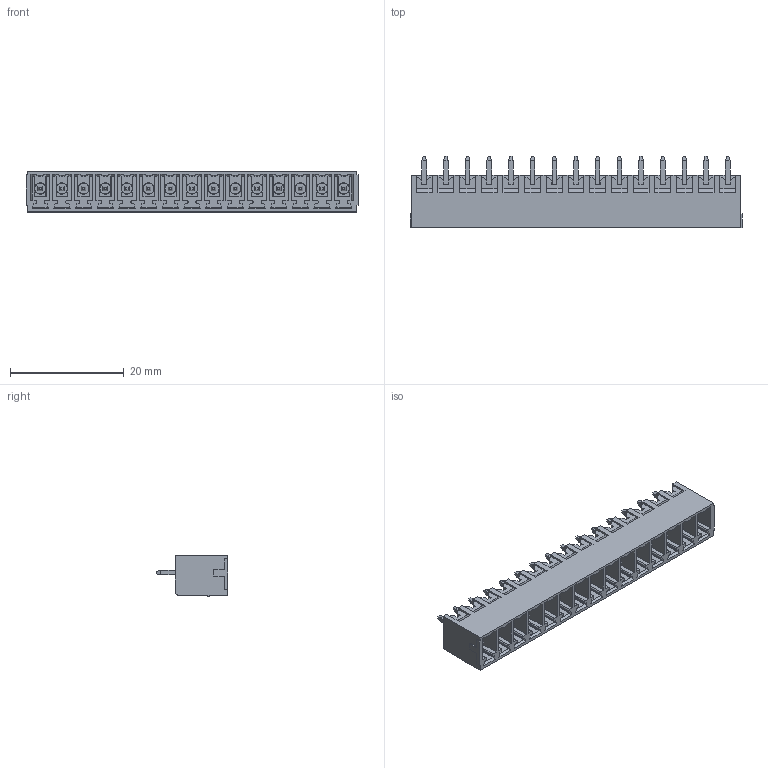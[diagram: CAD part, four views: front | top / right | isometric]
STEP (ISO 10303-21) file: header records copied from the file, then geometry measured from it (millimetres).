
FILE_DESCRIPTION(('FreeCAD Model'),'2;1');
FILE_NAME('Open CASCADE Shape Model','2023-05-24T16:08:30',('Author'),( ''),'Open CASCADE STEP processor 7.6','FreeCAD','Unknown');
FILE_SCHEMA(('AUTOMOTIVE_DESIGN { 1 0 10303 214 1 1 1 1 }'));
Products named in the file (1): BR7MC2-15
Bounding box: 58.34 x 12.6 x 7.2 mm (x, y, z)
Volume: 1748 mm3; surface area: 5288.6 mm2
Topology: 1 solids, 1 shells, 1212 faces, 3225 edges, 2045 vertices
Faces by surface type: plane 1061, cylinder 76, cone 45, sphere 30
Entity records: 79479 total; most frequent: CARTESIAN_POINT 14676, DIRECTION 12094, LINE 8921, VECTOR 8921, ORIENTED_EDGE 6390, PCURVE 6390, DEFINITIONAL_REPRESENTATION 6390, EDGE_CURVE 3195
